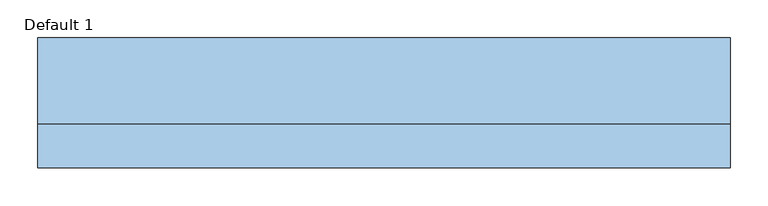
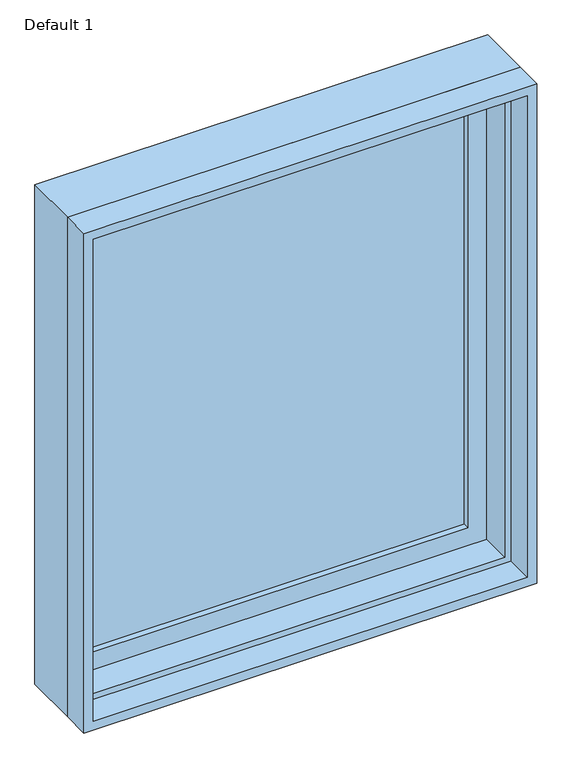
"""IFC4 building model written with IfcOpenShell, lengths in millimetres: window geometry, Planitar-Casement-Single_Left : Default 1."""

from ifc_helpers import new_model, si_unit, frame, origin, place, context, project, spatial, polyline, outline, extrude, faceted_brep, source, transform, mapped, element, save


def default_1_9668cb2b(model_context):
    return source(origin(), model_context, "Body", "SolidModel", [
        extrude(outline(polyline([(387.35, 76.2), (387.35, 69.85), (-387.35, 69.85), (-387.35, 76.2), (387.35, 76.2)])), frame((0.0, 0.0, 984.25), z_axis=(0.0, 0.0, 1.0), x_axis=(1.0, 0.0, 0.0)), (0.0, 0.0, 1.0), 927.1),
        extrude(outline(polyline([(-387.35, 57.15), (-387.35, 63.5), (387.35, 63.5), (387.35, 57.15), (-387.35, 57.15)])), frame((0.0, 0.0, 984.25), z_axis=(0.0, 0.0, 1.0), x_axis=(1.0, 0.0, 0.0)), (0.0, 0.0, 1.0), 927.1),
        extrude(outline(polyline([(1968.5, -444.5), (927.1, -444.5), (927.1, 444.5), (1968.5, 444.5), (1968.5, -444.5)]), holes=[polyline([(1911.35, 387.35), (984.25, 387.35), (984.25, -387.35), (1911.35, -387.35), (1911.35, 387.35)])]), frame((0.0, 44.45, 0.0), z_axis=(0.0, 1.0, 0.0), x_axis=(0.0, 0.0, 1.0)), (0.0, 0.0, 1.0), 44.45),
        extrude(outline(polyline([(1981.2, -457.2), (914.4, -457.2), (914.4, 457.2), (1981.2, 457.2), (1981.2, -457.2)]), holes=[polyline([(1962.15, 438.15), (933.45, 438.15), (933.45, -438.15), (1962.15, -438.15), (1962.15, 438.15)])]), frame((0.0, -76.2, 0.0), z_axis=(0.0, 1.0, 0.0), x_axis=(0.0, 0.0, 1.0)), (0.0, 0.0, 1.0), 57.15),
        faceted_brep([(425.45, 44.45, 1949.45), (425.45, -19.05, 1949.45), (-425.45, -19.05, 1949.45), (-425.45, 44.45, 1949.45), (444.5, 95.25, 1968.5), (444.5, 44.45, 1968.5), (-444.5, 44.45, 1968.5), (-444.5, 95.25, 1968.5), (457.2, -19.05, 1981.2), (457.2, 95.25, 1981.2), (-457.2, 95.25, 1981.2), (-457.2, -19.05, 1981.2), (-425.45, -19.05, 946.15), (-425.45, 44.45, 946.15), (-444.5, 44.45, 927.1), (-444.5, 95.25, 927.1), (-457.2, 95.25, 914.4), (-457.2, -19.05, 914.4), (425.45, -19.05, 946.15), (425.45, 44.45, 946.15), (444.5, 44.45, 927.1), (444.5, 95.25, 927.1), (457.2, 95.25, 914.4), (457.2, -19.05, 914.4)], [[[0, 1, 2, 3]], [[4, 5, 6, 7]], [[8, 9, 10, 11]], [[3, 2, 12, 13]], [[7, 6, 14, 15]], [[11, 10, 16, 17]], [[13, 12, 18, 19]], [[15, 14, 20, 21]], [[17, 16, 22, 23]], [[11, 17, 23, 8], [1, 18, 12, 2]], [[19, 18, 1, 0]], [[5, 20, 14, 6], [3, 13, 19, 0]], [[21, 20, 5, 4]], [[23, 22, 9, 8]], [[9, 22, 16, 10], [7, 15, 21, 4]]]),
    ])


if __name__ == "__main__":
    model = new_model("IFC4")
    model_context = context("Model", 3, world=origin())
    ifc_project = project(units=[si_unit("LENGTHUNIT", "METRE", prefix="MILLI")], contexts=[model_context])
    site = spatial("IfcSite", under=ifc_project)
    building = spatial("IfcBuilding", under=site)
    placement = place(None, origin())
    default_1_shape = default_1_9668cb2b(model_context)
    element("IfcWindow", 1, ObjectType="Planitar-Casement-Single_Left : Default 1", at=placement, inside=building, context=model_context, shape_type="MappedRepresentation", body=[
        mapped(default_1_shape, transform((0.0, 0.0, 0.0), x_axis=(1.0, 0.0, 0.0), y_axis=(0.0, 1.0, 0.0), z_axis=(0.0, 0.0, 1.0))),
    ])
    save(model, "model.ifc")
